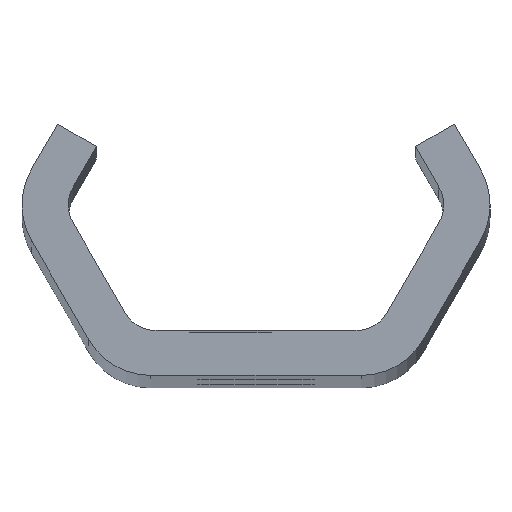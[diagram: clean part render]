
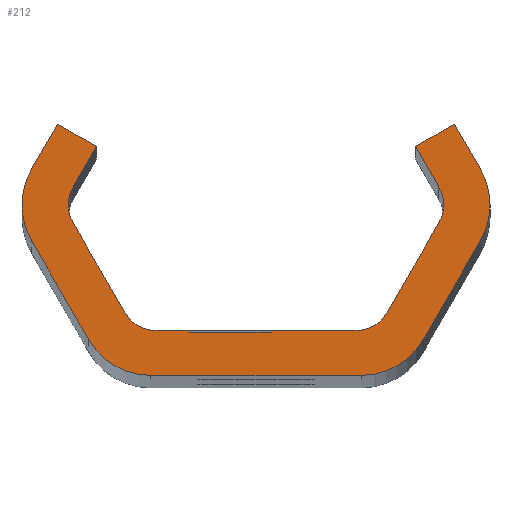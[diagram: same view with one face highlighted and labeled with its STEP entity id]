
A CAD part, top view. The second image highlights one B-rep face of the part: STEP entity #212.
In plain terms, the highlighted planar face has unit normal (0, 0, 1).
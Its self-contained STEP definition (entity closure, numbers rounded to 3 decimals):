
#212=ADVANCED_FACE('NONE',(#533),#534,.F.);
#533=FACE_OUTER_BOUND('',#1464,.T.);
#534=PLANE('',#1465);
#1464=EDGE_LOOP('',(#3013,#3014,#3015,#3016,#3017,#3018,#3019,#3020,#3021,#3022,#3023,#3024,#3025,#3026,#3027,#3028,#3029,#3030,#3031,#3032,#3033,#3034,#3035,#3036,#3037,#3038,#3039,#3040));
#1465=AXIS2_PLACEMENT_3D('',#3041,#3042,#3043);
#3013=ORIENTED_EDGE('',*,*,#4029,.F.);
#3014=ORIENTED_EDGE('',*,*,#4030,.T.);
#3015=ORIENTED_EDGE('',*,*,#3934,.F.);
#3016=ORIENTED_EDGE('',*,*,#4031,.T.);
#3017=ORIENTED_EDGE('',*,*,#3995,.T.);
#3018=ORIENTED_EDGE('',*,*,#4032,.T.);
#3019=ORIENTED_EDGE('',*,*,#3834,.T.);
#3020=ORIENTED_EDGE('',*,*,#3998,.T.);
#3021=ORIENTED_EDGE('',*,*,#4004,.T.);
#3022=ORIENTED_EDGE('',*,*,#4008,.T.);
#3023=ORIENTED_EDGE('',*,*,#4033,.T.);
#3024=ORIENTED_EDGE('',*,*,#3886,.T.);
#3025=ORIENTED_EDGE('',*,*,#4012,.T.);
#3026=ORIENTED_EDGE('',*,*,#4034,.T.);
#3027=ORIENTED_EDGE('',*,*,#4014,.T.);
#3028=ORIENTED_EDGE('',*,*,#4035,.T.);
#3029=ORIENTED_EDGE('',*,*,#4023,.F.);
#3030=ORIENTED_EDGE('',*,*,#4036,.T.);
#3031=ORIENTED_EDGE('',*,*,#3839,.T.);
#3032=ORIENTED_EDGE('',*,*,#4026,.F.);
#3033=ORIENTED_EDGE('',*,*,#3917,.F.);
#3034=ORIENTED_EDGE('',*,*,#3921,.F.);
#3035=ORIENTED_EDGE('',*,*,#3883,.T.);
#3036=ORIENTED_EDGE('',*,*,#4037,.T.);
#3037=ORIENTED_EDGE('',*,*,#3925,.F.);
#3038=ORIENTED_EDGE('',*,*,#4038,.T.);
#3039=ORIENTED_EDGE('',*,*,#3930,.F.);
#3040=ORIENTED_EDGE('',*,*,#4039,.T.);
#3041=CARTESIAN_POINT('',(0.0,0.0,400.0));
#3042=DIRECTION('',(0.0,0.0,-1.0));
#3043=DIRECTION('',(0.0,-1.0,0.0));
#3834=EDGE_CURVE('NONE',#4293,#4297,#4299,.T.);
#3839=EDGE_CURVE('NONE',#4302,#4306,#4308,.T.);
#3883=EDGE_CURVE('NONE',#4387,#4385,#4388,.T.);
#3886=EDGE_CURVE('NONE',#4391,#4392,#4393,.T.);
#3917=EDGE_CURVE('NONE',#4439,#4441,#4442,.T.);
#3921=EDGE_CURVE('NONE',#4387,#4439,#4446,.T.);
#3925=EDGE_CURVE('NONE',#4451,#4453,#4454,.T.);
#3930=EDGE_CURVE('NONE',#4460,#4462,#4463,.T.);
#3934=EDGE_CURVE('NONE',#4468,#4458,#4470,.T.);
#3995=EDGE_CURVE('NONE',#4586,#4584,#4587,.T.);
#3998=EDGE_CURVE('NONE',#4297,#4590,#4591,.T.);
#4004=EDGE_CURVE('NONE',#4590,#4598,#4600,.T.);
#4008=EDGE_CURVE('NONE',#4598,#4604,#4606,.T.);
#4012=EDGE_CURVE('NONE',#4392,#4610,#4612,.T.);
#4014=EDGE_CURVE('NONE',#4614,#4615,#4616,.T.);
#4023=EDGE_CURVE('NONE',#4628,#4630,#4631,.T.);
#4026=EDGE_CURVE('NONE',#4441,#4306,#4634,.T.);
#4029=EDGE_CURVE('NONE',#4637,#4638,#4639,.T.);
#4030=EDGE_CURVE('NONE',#4637,#4458,#4640,.T.);
#4031=EDGE_CURVE('NONE',#4468,#4586,#4641,.T.);
#4032=EDGE_CURVE('NONE',#4584,#4293,#4642,.T.);
#4033=EDGE_CURVE('NONE',#4604,#4391,#4643,.T.);
#4034=EDGE_CURVE('NONE',#4610,#4614,#4644,.T.);
#4035=EDGE_CURVE('NONE',#4615,#4630,#4645,.T.);
#4036=EDGE_CURVE('NONE',#4628,#4302,#4646,.T.);
#4037=EDGE_CURVE('NONE',#4385,#4453,#4647,.T.);
#4038=EDGE_CURVE('NONE',#4451,#4462,#4648,.T.);
#4039=EDGE_CURVE('NONE',#4460,#4638,#4649,.T.);
#4293=VERTEX_POINT('',#4976);
#4297=VERTEX_POINT('NONE',#4981);
#4299=CIRCLE('',#4984,2.0);
#4302=VERTEX_POINT('',#4987);
#4306=VERTEX_POINT('NONE',#4992);
#4308=CIRCLE('',#4995,4.0);
#4385=VERTEX_POINT('NONE',#5600);
#4387=VERTEX_POINT('NONE',#5603);
#4388=CIRCLE('',#5604,2.0);
#4391=VERTEX_POINT('NONE',#5608);
#4392=VERTEX_POINT('NONE',#5609);
#4393=CIRCLE('',#5610,4.0);
#4439=VERTEX_POINT('NONE',#5665);
#4441=VERTEX_POINT('NONE',#5668);
#4442=LINE('',#5669,#5670);
#4446=LINE('',#5676,#5677);
#4451=VERTEX_POINT('NONE',#5683);
#4453=VERTEX_POINT('NONE',#5686);
#4454=LINE('',#5687,#5688);
#4458=VERTEX_POINT('NONE',#5693);
#4460=VERTEX_POINT('NONE',#5696);
#4462=VERTEX_POINT('NONE',#5699);
#4463=LINE('',#5700,#5701);
#4468=VERTEX_POINT('NONE',#5708);
#4470=LINE('',#5711,#5712);
#4584=VERTEX_POINT('NONE',#6175);
#4586=VERTEX_POINT('NONE',#6178);
#4587=LINE('',#6179,#6180);
#4590=VERTEX_POINT('NONE',#6184);
#4591=LINE('',#6185,#6186);
#4598=VERTEX_POINT('NONE',#6196);
#4600=LINE('',#6199,#6200);
#4604=VERTEX_POINT('NONE',#6205);
#4606=LINE('',#6208,#6209);
#4610=VERTEX_POINT('NONE',#6214);
#4612=LINE('',#6217,#6218);
#4614=VERTEX_POINT('NONE',#6220);
#4615=VERTEX_POINT('NONE',#6221);
#4616=LINE('',#6222,#6223);
#4628=VERTEX_POINT('NONE',#6239);
#4630=VERTEX_POINT('NONE',#6242);
#4631=LINE('',#6243,#6244);
#4634=LINE('',#6248,#6249);
#4637=VERTEX_POINT('NONE',#6253);
#4638=VERTEX_POINT('NONE',#6254);
#4639=LINE('',#6255,#6256);
#4640=LINE('',#6257,#6258);
#4641=CIRCLE('',#6259,2.0);
#4642=CIRCLE('',#6260,2.0);
#4643=CIRCLE('',#6261,4.0);
#4644=CIRCLE('',#6262,4.0);
#4645=CIRCLE('',#6263,4.0);
#4646=CIRCLE('',#6264,4.0);
#4647=CIRCLE('',#6265,2.0);
#4648=CIRCLE('',#6266,2.0);
#4649=LINE('',#6267,#6268);
#4976=CARTESIAN_POINT('',(-10.455,0.,400.0));
#4981=CARTESIAN_POINT('',(-10.187,1.,400.0));
#4984=AXIS2_PLACEMENT_3D('',#7363,#7364,#7365);
#4987=CARTESIAN_POINT('',(13.032,0.,400.0));
#4992=CARTESIAN_POINT('',(12.496,2.0,400.0));
#4995=AXIS2_PLACEMENT_3D('',#7371,#7372,#7373);
#5600=CARTESIAN_POINT('',(10.455,0.,400.0));
#5603=CARTESIAN_POINT('',(10.187,1.,400.0));
#5604=AXIS2_PLACEMENT_3D('',#7406,#7407,#7408);
#5608=CARTESIAN_POINT('',(-13.032,0.,400.0));
#5609=CARTESIAN_POINT('',(-12.496,-2.,400.0));
#5610=AXIS2_PLACEMENT_3D('',#7410,#7411,#7412);
#5665=CARTESIAN_POINT('',(8.888,3.25,400.0));
#5668=CARTESIAN_POINT('',(11.053,4.5,400.0));
#5669=CARTESIAN_POINT('',(8.888,3.25,400.0));
#5670=VECTOR('',#7462,1000.0);
#5676=CARTESIAN_POINT('',(10.764,0.,400.0));
#5677=VECTOR('',#7465,1000.0);
#5683=CARTESIAN_POINT('',(7.3,-6.,400.0));
#5686=CARTESIAN_POINT('',(10.187,-1.,400.0));
#5687=CARTESIAN_POINT('',(6.723,-7.0,400.0));
#5688=VECTOR('',#7468,1000.0);
#5693=CARTESIAN_POINT('',(-3.702,-7.0,400.0));
#5696=CARTESIAN_POINT('',(0.841,-7.0,400.0));
#5699=CARTESIAN_POINT('',(5.568,-7.0,400.0));
#5700=CARTESIAN_POINT('',(-6.723,-7.0,400.0));
#5701=VECTOR('',#7472,1000.0);
#5708=CARTESIAN_POINT('',(-5.568,-7.0,400.0));
#5711=CARTESIAN_POINT('',(-6.723,-7.0,400.0));
#5712=VECTOR('',#7476,1000.0);
#6175=CARTESIAN_POINT('',(-10.187,-1.,400.0));
#6178=CARTESIAN_POINT('',(-7.3,-6.,400.0));
#6179=CARTESIAN_POINT('',(-6.723,-7.0,400.0));
#6180=VECTOR('',#7533,1000.0);
#6184=CARTESIAN_POINT('',(-8.888,3.25,400.0));
#6185=CARTESIAN_POINT('',(-10.764,0.0,400.0));
#6186=VECTOR('',#7535,1000.0);
#6196=CARTESIAN_POINT('',(-11.053,4.5,400.0));
#6199=CARTESIAN_POINT('',(-8.888,3.25,400.0));
#6200=VECTOR('',#7540,1000.0);
#6205=CARTESIAN_POINT('',(-12.496,2.0,400.0));
#6208=CARTESIAN_POINT('',(-11.053,4.5,400.0));
#6209=VECTOR('',#7543,1000.0);
#6214=CARTESIAN_POINT('',(-9.321,-7.5,400.0));
#6217=CARTESIAN_POINT('',(-13.651,0.0,400.0));
#6218=VECTOR('',#7546,1000.0);
#6220=CARTESIAN_POINT('',(-5.857,-9.5,400.0));
#6221=CARTESIAN_POINT('',(5.857,-9.5,400.0));
#6222=CARTESIAN_POINT('',(-8.166,-9.5,400.0));
#6223=VECTOR('',#7547,1000.0);
#6239=CARTESIAN_POINT('',(12.496,-2.,400.0));
#6242=CARTESIAN_POINT('',(9.321,-7.5,400.0));
#6243=CARTESIAN_POINT('',(13.651,0.,400.0));
#6244=VECTOR('',#7559,1000.0);
#6248=CARTESIAN_POINT('',(11.053,4.5,400.0));
#6249=VECTOR('',#7561,1000.0);
#6253=CARTESIAN_POINT('',(-3.702,-7.1,400.0));
#6254=CARTESIAN_POINT('',(0.841,-7.1,400.0));
#6255=CARTESIAN_POINT('',(0.,-7.1,400.0));
#6256=VECTOR('',#7563,1000.0);
#6257=CARTESIAN_POINT('',(-3.702,0.,400.0));
#6258=VECTOR('',#7564,1000.0);
#6259=AXIS2_PLACEMENT_3D('',#7565,#7566,#7567);
#6260=AXIS2_PLACEMENT_3D('',#7568,#7569,#7570);
#6261=AXIS2_PLACEMENT_3D('',#7571,#7572,#7573);
#6262=AXIS2_PLACEMENT_3D('',#7574,#7575,#7576);
#6263=AXIS2_PLACEMENT_3D('',#7577,#7578,#7579);
#6264=AXIS2_PLACEMENT_3D('',#7580,#7581,#7582);
#6265=AXIS2_PLACEMENT_3D('',#7583,#7584,#7585);
#6266=AXIS2_PLACEMENT_3D('',#7586,#7587,#7588);
#6267=CARTESIAN_POINT('',(0.841,0.,400.0));
#6268=VECTOR('',#7589,1000.0);
#7363=CARTESIAN_POINT('',(-8.455,0.,400.0));
#7364=DIRECTION('',(0.0,0.0,-1.0));
#7365=DIRECTION('',(-1.0,0.0,0.0));
#7371=CARTESIAN_POINT('',(9.032,0.,400.0));
#7372=DIRECTION('',(0.0,0.0,1.0));
#7373=DIRECTION('',(-1.0,0.,0.0));
#7406=CARTESIAN_POINT('',(8.455,0.,400.0));
#7407=DIRECTION('',(0.0,0.0,-1.0));
#7408=DIRECTION('',(-1.0,0.0,0.0));
#7410=CARTESIAN_POINT('',(-9.032,0.,400.0));
#7411=DIRECTION('',(0.0,0.0,1.0));
#7412=DIRECTION('',(-1.0,0.0,0.0));
#7462=DIRECTION('',(0.866,0.5,0.0));
#7465=DIRECTION('',(-0.5,0.866,0.0));
#7468=DIRECTION('',(0.5,0.866,0.0));
#7472=DIRECTION('',(1.0,0.,0.0));
#7476=DIRECTION('',(1.0,0.,0.0));
#7533=DIRECTION('',(-0.5,0.866,0.0));
#7535=DIRECTION('',(0.5,0.866,0.0));
#7540=DIRECTION('',(-0.866,0.5,0.0));
#7543=DIRECTION('',(-0.5,-0.866,0.0));
#7546=DIRECTION('',(0.5,-0.866,0.0));
#7547=DIRECTION('',(1.0,0.,0.0));
#7559=DIRECTION('',(-0.5,-0.866,0.0));
#7561=DIRECTION('',(0.5,-0.866,0.0));
#7563=DIRECTION('',(1.0,0.,0.0));
#7564=DIRECTION('',(0.,1.0,0.0));
#7565=CARTESIAN_POINT('',(-5.568,-5.0,400.0));
#7566=DIRECTION('',(0.0,0.0,-1.0));
#7567=DIRECTION('',(-1.0,0.0,0.0));
#7568=CARTESIAN_POINT('',(-8.455,0.,400.0));
#7569=DIRECTION('',(0.0,0.0,-1.0));
#7570=DIRECTION('',(-1.0,0.0,0.0));
#7571=CARTESIAN_POINT('',(-9.032,0.,400.0));
#7572=DIRECTION('',(0.0,0.0,1.0));
#7573=DIRECTION('',(-1.0,0.,0.0));
#7574=CARTESIAN_POINT('',(-5.857,-5.5,400.0));
#7575=DIRECTION('',(0.0,0.0,1.0));
#7576=DIRECTION('',(-1.0,0.0,0.0));
#7577=CARTESIAN_POINT('',(5.857,-5.5,400.0));
#7578=DIRECTION('',(0.0,0.0,1.0));
#7579=DIRECTION('',(-1.0,0.0,0.0));
#7580=CARTESIAN_POINT('',(9.032,0.,400.0));
#7581=DIRECTION('',(0.0,0.0,1.0));
#7582=DIRECTION('',(-1.0,0.,0.0));
#7583=CARTESIAN_POINT('',(8.455,0.,400.0));
#7584=DIRECTION('',(0.0,0.0,-1.0));
#7585=DIRECTION('',(-1.0,0.0,0.0));
#7586=CARTESIAN_POINT('',(5.568,-5.0,400.0));
#7587=DIRECTION('',(0.0,0.0,-1.0));
#7588=DIRECTION('',(-1.0,0.0,0.0));
#7589=DIRECTION('',(0.,-1.0,0.0));
